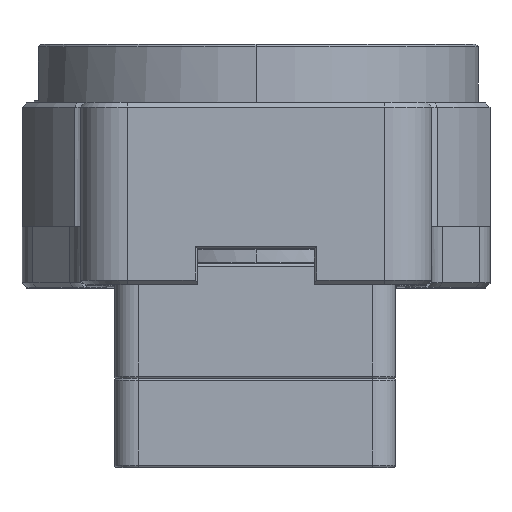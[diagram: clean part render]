
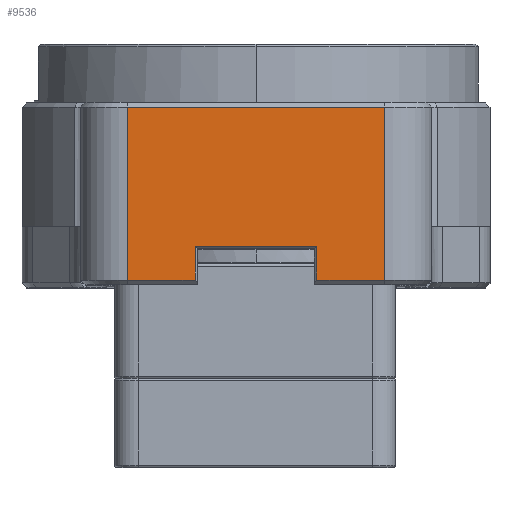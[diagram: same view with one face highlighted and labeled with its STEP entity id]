
A CAD part, top view. The second image highlights one B-rep face of the part: STEP entity #9536.
In plain terms, the highlighted planar face has unit normal (0, 0, 1).
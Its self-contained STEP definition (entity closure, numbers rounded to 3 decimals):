
#30 = CARTESIAN_POINT ( 'NONE',  ( 13., 1.5, 85. ) ) ;
#120 = VECTOR ( 'NONE', #10915, 1000. ) ;
#294 = LINE ( 'NONE', #11011, #120 ) ;
#646 = VERTEX_POINT ( 'NONE', #19210 ) ;
#1275 = AXIS2_PLACEMENT_3D ( 'NONE', #18901, #18318, #18148 ) ;
#3341 = EDGE_CURVE ( 'NONE', #14950, #646, #6017, .T. ) ;
#3934 = LINE ( 'NONE', #5749, #11790 ) ;
#3980 = EDGE_LOOP ( 'NONE', ( #8639, #9908, #10923, #13509, #14681, #6673, #7691, #9688 ) ) ;
#4277 = EDGE_CURVE ( 'NONE', #13966, #18018, #294, .T. ) ;
#4563 = DIRECTION ( 'NONE',  ( 1., 0., 0. ) ) ;
#4633 = CARTESIAN_POINT ( 'NONE',  ( -27.5, 1.5, 85. ) ) ;
#4934 = FACE_OUTER_BOUND ( 'NONE', #3980, .T. ) ;
#5122 = VECTOR ( 'NONE', #18269, 1000. ) ;
#5294 = LINE ( 'NONE', #18971, #5122 ) ;
#5399 = VERTEX_POINT ( 'NONE', #18307 ) ;
#5705 = DIRECTION ( 'NONE',  ( 1., 0., 0. ) ) ;
#5749 = CARTESIAN_POINT ( 'NONE',  ( 12.5, 8.7, 85. ) ) ;
#5857 = VECTOR ( 'NONE', #12944, 1000. ) ;
#6017 = LINE ( 'NONE', #12922, #5857 ) ;
#6064 = LINE ( 'NONE', #14659, #17709 ) ;
#6081 = VECTOR ( 'NONE', #4563, 1000. ) ;
#6166 = CARTESIAN_POINT ( 'NONE',  ( -13., 1.5, 85. ) ) ;
#6673 = ORIENTED_EDGE ( 'NONE', *, *, #3341, .F. ) ;
#7691 = ORIENTED_EDGE ( 'NONE', *, *, #8021, .T. ) ;
#8021 = EDGE_CURVE ( 'NONE', #14950, #13966, #5294, .T. ) ;
#8639 = ORIENTED_EDGE ( 'NONE', *, *, #17233, .T. ) ;
#9536 = ADVANCED_FACE ( 'NONE', ( #4934 ), #19449, .F. ) ;
#9545 = LINE ( 'NONE', #13834, #13690 ) ;
#9643 = LINE ( 'NONE', #15957, #14467 ) ;
#9688 = ORIENTED_EDGE ( 'NONE', *, *, #4277, .T. ) ;
#9908 = ORIENTED_EDGE ( 'NONE', *, *, #15232, .T. ) ;
#10060 = VERTEX_POINT ( 'NONE', #15125 ) ;
#10294 = LINE ( 'NONE', #4633, #6081 ) ;
#10915 = DIRECTION ( 'NONE',  ( 0., -1., 0. ) ) ;
#10923 = ORIENTED_EDGE ( 'NONE', *, *, #17108, .T. ) ;
#11011 = CARTESIAN_POINT ( 'NONE',  ( -27.5, 39.5, 85. ) ) ;
#11668 = CARTESIAN_POINT ( 'NONE',  ( -27.5, 38.5, 85. ) ) ;
#11790 = VECTOR ( 'NONE', #5705, 1000. ) ;
#12647 = CARTESIAN_POINT ( 'NONE',  ( -27.5, 1.5, 85. ) ) ;
#12922 = CARTESIAN_POINT ( 'NONE',  ( 27.5, 39.5, 85. ) ) ;
#12944 = DIRECTION ( 'NONE',  ( 0., -1., 0. ) ) ;
#13264 = VERTEX_POINT ( 'NONE', #6166 ) ;
#13486 = VERTEX_POINT ( 'NONE', #30 ) ;
#13509 = ORIENTED_EDGE ( 'NONE', *, *, #18579, .T. ) ;
#13637 = DIRECTION ( 'NONE',  ( 1., 0., 0. ) ) ;
#13690 = VECTOR ( 'NONE', #13637, 1000. ) ;
#13834 = CARTESIAN_POINT ( 'NONE',  ( -27.5, 1.5, 85. ) ) ;
#13966 = VERTEX_POINT ( 'NONE', #11668 ) ;
#14467 = VECTOR ( 'NONE', #16136, 1000. ) ;
#14659 = CARTESIAN_POINT ( 'NONE',  ( 13., 39.5, 85. ) ) ;
#14663 = DIRECTION ( 'NONE',  ( 0., -1., 0. ) ) ;
#14681 = ORIENTED_EDGE ( 'NONE', *, *, #17819, .T. ) ;
#14950 = VERTEX_POINT ( 'NONE', #17552 ) ;
#15125 = CARTESIAN_POINT ( 'NONE',  ( -13., 8.7, 85. ) ) ;
#15232 = EDGE_CURVE ( 'NONE', #13264, #10060, #9643, .T. ) ;
#15957 = CARTESIAN_POINT ( 'NONE',  ( -13., 39.5, 85. ) ) ;
#16136 = DIRECTION ( 'NONE',  ( 0., 1., 0. ) ) ;
#17108 = EDGE_CURVE ( 'NONE', #10060, #5399, #3934, .T. ) ;
#17233 = EDGE_CURVE ( 'NONE', #18018, #13264, #10294, .T. ) ;
#17552 = CARTESIAN_POINT ( 'NONE',  ( 27.5, 38.5, 85. ) ) ;
#17709 = VECTOR ( 'NONE', #14663, 1000. ) ;
#17819 = EDGE_CURVE ( 'NONE', #13486, #646, #9545, .T. ) ;
#18018 = VERTEX_POINT ( 'NONE', #12647 ) ;
#18148 = DIRECTION ( 'NONE',  ( -1., 0., 0. ) ) ;
#18269 = DIRECTION ( 'NONE',  ( -1., 0., 0. ) ) ;
#18307 = CARTESIAN_POINT ( 'NONE',  ( 13., 8.7, 85. ) ) ;
#18318 = DIRECTION ( 'NONE',  ( 0., 0., -1. ) ) ;
#18579 = EDGE_CURVE ( 'NONE', #5399, #13486, #6064, .T. ) ;
#18901 = CARTESIAN_POINT ( 'NONE',  ( -27.5, 39.5, 85. ) ) ;
#18971 = CARTESIAN_POINT ( 'NONE',  ( -27.5, 38.5, 85. ) ) ;
#19210 = CARTESIAN_POINT ( 'NONE',  ( 27.5, 1.5, 85. ) ) ;
#19449 = PLANE ( 'NONE',  #1275 ) ;
